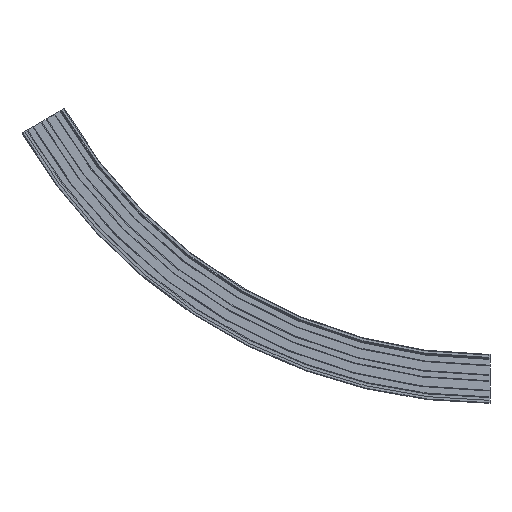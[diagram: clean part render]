
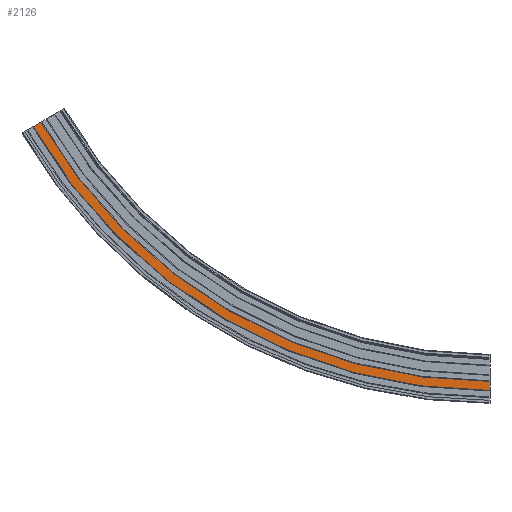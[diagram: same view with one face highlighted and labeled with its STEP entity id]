
A CAD part, left-side view. The second image highlights one B-rep face of the part: STEP entity #2126.
In plain terms, the highlighted planar face has unit normal (-1, 0, 0).
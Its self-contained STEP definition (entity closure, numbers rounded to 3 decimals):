
#214=CIRCLE('',#2314,865.5);
#215=CIRCLE('',#2316,880.5);
#325=FACE_OUTER_BOUND('',#443,.T.);
#443=EDGE_LOOP('',(#1725,#1726,#1727,#1728));
#593=LINE('',#8156,#771);
#594=LINE('',#8158,#772);
#771=VECTOR('',#2772,10.);
#772=VECTOR('',#2773,10.);
#983=VERTEX_POINT('',#8149);
#984=VERTEX_POINT('',#8151);
#985=VERTEX_POINT('',#8155);
#986=VERTEX_POINT('',#8157);
#1271=EDGE_CURVE('',#983,#984,#214,.T.);
#1272=EDGE_CURVE('',#985,#983,#593,.T.);
#1273=EDGE_CURVE('',#986,#984,#594,.T.);
#1274=EDGE_CURVE('',#985,#986,#215,.T.);
#1725=ORIENTED_EDGE('',*,*,#1272,.T.);
#1726=ORIENTED_EDGE('',*,*,#1271,.T.);
#1727=ORIENTED_EDGE('',*,*,#1273,.F.);
#1728=ORIENTED_EDGE('',*,*,#1274,.F.);
#2030=PLANE('',#2315);
#2126=ADVANCED_FACE('',(#325),#2030,.T.);
#2314=AXIS2_PLACEMENT_3D('',#8153,#2768,#2769);
#2315=AXIS2_PLACEMENT_3D('',#8154,#2770,#2771);
#2316=AXIS2_PLACEMENT_3D('',#8159,#2774,#2775);
#2768=DIRECTION('center_axis',(1.,0.,0.));
#2769=DIRECTION('ref_axis',(0.,0.,
-1.));
#2770=DIRECTION('center_axis',(-1.,0.,0.));
#2771=DIRECTION('ref_axis',(0.,0.,1.));
#2772=DIRECTION('',(0.,0.,1.));
#2773=DIRECTION('',(0.,-0.866,0.5));
#2774=DIRECTION('center_axis',(1.,0.,0.));
#2775=DIRECTION('ref_axis',(0.,0.,
-1.));
#8149=CARTESIAN_POINT('',(-112.,0.,-5.5));
#8151=CARTESIAN_POINT('',(-112.,749.545,427.25));
#8153=CARTESIAN_POINT('Origin',(-112.,0.,860.));
#8154=CARTESIAN_POINT('Origin',(-112.,0.,-20.5));
#8155=CARTESIAN_POINT('',(-112.,0.,-20.5));
#8156=CARTESIAN_POINT('',(-112.,0.,-20.5));
#8157=CARTESIAN_POINT('',(-112.,762.535,419.75));
#8158=CARTESIAN_POINT('',(-112.,762.535,419.75));
#8159=CARTESIAN_POINT('Origin',(-112.,0.,860.));
